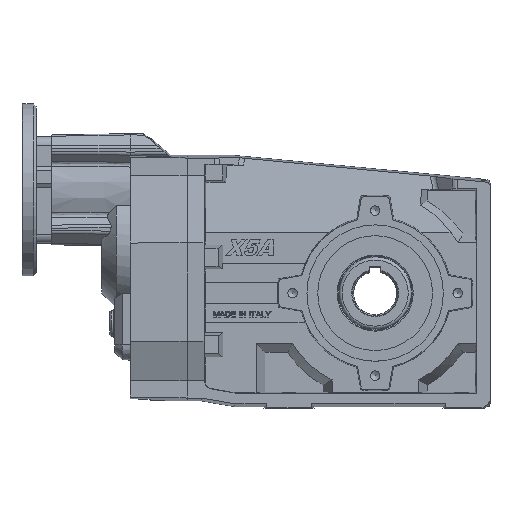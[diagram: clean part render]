
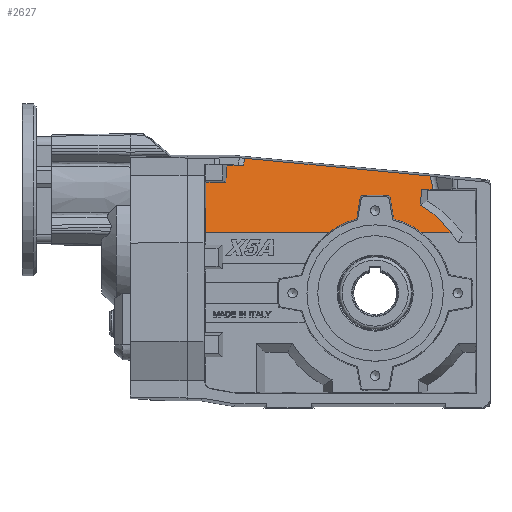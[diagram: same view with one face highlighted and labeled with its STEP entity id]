
A CAD part, top view. The second image highlights one B-rep face of the part: STEP entity #2627.
In plain terms, the highlighted planar face has unit normal (0, 0.208, 0.978).
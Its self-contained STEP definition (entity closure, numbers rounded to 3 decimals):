
#2627 = ADVANCED_FACE( '', ( #5766 ), #5767, .F. );
#5766 = FACE_OUTER_BOUND( '', #9890, .T. );
#5767 = PLANE( '', #9891 );
#9890 = EDGE_LOOP( '', ( #18056, #18057, #18058, #18059, #18060, #18061, #18062, #18063, #18064, #18065, #18066, #18067, #18068, #18069, #18070, #18071, #18072 ) );
#9891 = AXIS2_PLACEMENT_3D( '', #18073, #18074, #18075 );
#18056 = ORIENTED_EDGE( '', *, *, #23609, .F. );
#18057 = ORIENTED_EDGE( '', *, *, #22492, .F. );
#18058 = ORIENTED_EDGE( '', *, *, #23610, .F. );
#18059 = ORIENTED_EDGE( '', *, *, #21189, .F. );
#18060 = ORIENTED_EDGE( '', *, *, #20697, .F. );
#18061 = ORIENTED_EDGE( '', *, *, #23234, .T. );
#18062 = ORIENTED_EDGE( '', *, *, #22523, .F. );
#18063 = ORIENTED_EDGE( '', *, *, #23611, .F. );
#18064 = ORIENTED_EDGE( '', *, *, #21769, .F. );
#18065 = ORIENTED_EDGE( '', *, *, #23612, .T. );
#18066 = ORIENTED_EDGE( '', *, *, #22563, .F. );
#18067 = ORIENTED_EDGE( '', *, *, #22756, .T. );
#18068 = ORIENTED_EDGE( '', *, *, #23613, .F. );
#18069 = ORIENTED_EDGE( '', *, *, #23614, .F. );
#18070 = ORIENTED_EDGE( '', *, *, #20625, .F. );
#18071 = ORIENTED_EDGE( '', *, *, #23615, .F. );
#18072 = ORIENTED_EDGE( '', *, *, #23616, .F. );
#18073 = CARTESIAN_POINT( '', ( -131., 42., 49. ) );
#18074 = DIRECTION( '', ( 0., -0.208, -0.978 ) );
#18075 = DIRECTION( '', ( 0., 0.978, -0.208 ) );
#20625 = EDGE_CURVE( '', #24154, #24155, #24156, .T. );
#20697 = EDGE_CURVE( '', #24279, #24280, #24281, .F. );
#21189 = EDGE_CURVE( '', #24280, #25145, #25146, .T. );
#21769 = EDGE_CURVE( '', #26125, #26127, #26128, .T. );
#22492 = EDGE_CURVE( '', #27217, #27219, #27220, .T. );
#22523 = EDGE_CURVE( '', #27264, #27266, #27267, .T. );
#22563 = EDGE_CURVE( '', #27325, #27327, #27328, .T. );
#22756 = EDGE_CURVE( '', #27325, #27597, #27598, .F. );
#23234 = EDGE_CURVE( '', #24279, #27266, #28237, .T. );
#23609 = EDGE_CURVE( '', #27219, #28690, #28691, .F. );
#23610 = EDGE_CURVE( '', #25145, #27217, #28692, .F. );
#23611 = EDGE_CURVE( '', #26127, #27264, #28693, .T. );
#23612 = EDGE_CURVE( '', #26125, #27327, #28694, .F. );
#23613 = EDGE_CURVE( '', #28695, #27597, #28696, .F. );
#23614 = EDGE_CURVE( '', #24155, #28695, #28697, .T. );
#23615 = EDGE_CURVE( '', #28698, #24154, #28699, .T. );
#23616 = EDGE_CURVE( '', #28690, #28698, #28700, .F. );
#24154 = VERTEX_POINT( '', #29299 );
#24155 = VERTEX_POINT( '', #29300 );
#24156 = LINE( '', #29301, #29302 );
#24279 = VERTEX_POINT( '', #29465 );
#24280 = VERTEX_POINT( '', #29466 );
#24281 = ELLIPSE( '', #29467, 53.791, 52.612 );
#25145 = VERTEX_POINT( '', #30946 );
#25146 = LINE( '', #30947, #30948 );
#26125 = VERTEX_POINT( '', #32607 );
#26127 = VERTEX_POINT( '', #32609 );
#26128 = LINE( '', #32610, #32611 );
#27217 = VERTEX_POINT( '', #34530 );
#27219 = VERTEX_POINT( '', #34535 );
#27220 = LINE( '', #34536, #34537 );
#27264 = VERTEX_POINT( '', #34595 );
#27266 = VERTEX_POINT( '', #34600 );
#27267 = ELLIPSE( '', #34601, 66.082, 64.444 );
#27325 = VERTEX_POINT( '', #34700 );
#27327 = VERTEX_POINT( '', #34702 );
#27328 = LINE( '', #34703, #34704 );
#27597 = VERTEX_POINT( '', #35120 );
#27598 = LINE( '', #35121, #35122 );
#28237 = LINE( '', #36155, #36156 );
#28690 = VERTEX_POINT( '', #37011 );
#28691 = ELLIPSE( '', #37012, 53.791, 52.612 );
#28692 = ELLIPSE( '', #37013, 69.128, 67.613 );
#28693 = LINE( '', #37014, #37015 );
#28694 = LINE( '', #37016, #37017 );
#28695 = VERTEX_POINT( '', #37018 );
#28696 = LINE( '', #37019, #37020 );
#28697 = LINE( '', #37021, #37022 );
#28698 = VERTEX_POINT( '', #37023 );
#28699 = LINE( '', #37024, #37025 );
#28700 = LINE( '', #37026, #37027 );
#29299 = CARTESIAN_POINT( '', ( -117.952, 77.296, 41.498 ) );
#29300 = CARTESIAN_POINT( '', ( -104.039, 77.296, 41.498 ) );
#29301 = CARTESIAN_POINT( '', ( -106.183, 77.296, 41.498 ) );
#29302 = VECTOR( '', #37746, 1000. );
#29465 = CARTESIAN_POINT( '', ( 32.452, 42., 49. ) );
#29466 = CARTESIAN_POINT( '', ( 12.879, 51.6, 46.959 ) );
#29467 = AXIS2_PLACEMENT_3D( '', #37829, #37830, #37831 );
#30946 = CARTESIAN_POINT( '', ( 10.24, 67.59, 43.561 ) );
#30947 = CARTESIAN_POINT( '', ( 12.879, 51.6, 46.959 ) );
#30948 = VECTOR( '', #38338, 1000. );
#32607 = CARTESIAN_POINT( '', ( 40.417, 72.121, 42.598 ) );
#32609 = CARTESIAN_POINT( '', ( 32.33, 72.121, 42.598 ) );
#32610 = CARTESIAN_POINT( '', ( -34.527, 72.121, 42.598 ) );
#32611 = VECTOR( '', #38948, 1000. );
#34530 = CARTESIAN_POINT( '', ( -10.24, 67.59, 43.561 ) );
#34535 = CARTESIAN_POINT( '', ( -12.879, 51.6, 46.959 ) );
#34536 = CARTESIAN_POINT( '', ( -10.24, 67.59, 43.561 ) );
#34537 = VECTOR( '', #39661, 1000. );
#34595 = CARTESIAN_POINT( '', ( 31.5, 61.39, 44.878 ) );
#34600 = CARTESIAN_POINT( '', ( 52.842, 42., 49. ) );
#34601 = AXIS2_PLACEMENT_3D( '', #39694, #39695, #39696 );
#34700 = CARTESIAN_POINT( '', ( -90.771, 93.978, 37.952 ) );
#34702 = CARTESIAN_POINT( '', ( 38.414, 81.548, 40.594 ) );
#34703 = CARTESIAN_POINT( '', ( -90.771, 93.978, 37.952 ) );
#34704 = VECTOR( '', #39740, 1000. );
#35120 = CARTESIAN_POINT( '', ( -91.806, 89.109, 38.987 ) );
#35121 = CARTESIAN_POINT( '', ( -91.806, 89.109, 38.987 ) );
#35122 = VECTOR( '', #39917, 1000. );
#36155 = CARTESIAN_POINT( '', ( -131., 42., 49. ) );
#36156 = VECTOR( '', #40380, 1000. );
#37011 = CARTESIAN_POINT( '', ( -32.452, 42., 49. ) );
#37012 = AXIS2_PLACEMENT_3D( '', #40664, #40665, #40666 );
#37013 = AXIS2_PLACEMENT_3D( '', #40667, #40668, #40669 );
#37014 = CARTESIAN_POINT( '', ( 32.33, 72.121, 42.598 ) );
#37015 = VECTOR( '', #40670, 1000. );
#37016 = CARTESIAN_POINT( '', ( 38.414, 81.548, 40.594 ) );
#37017 = VECTOR( '', #40671, 1000. );
#37018 = CARTESIAN_POINT( '', ( -103.366, 89.109, 38.987 ) );
#37019 = CARTESIAN_POINT( '', ( 0., 89.109, 38.987 ) );
#37020 = VECTOR( '', #40672, 1000. );
#37021 = CARTESIAN_POINT( '', ( -104.039, 77.296, 41.498 ) );
#37022 = VECTOR( '', #40673, 1000. );
#37023 = CARTESIAN_POINT( '', ( -118.345, 42., 49. ) );
#37024 = CARTESIAN_POINT( '', ( -118.345, 42., 49. ) );
#37025 = VECTOR( '', #40674, 1000. );
#37026 = CARTESIAN_POINT( '', ( -131., 42., 49. ) );
#37027 = VECTOR( '', #40675, 1000. );
#37746 = DIRECTION( '', ( 1., 0., 0. ) );
#37829 = CARTESIAN_POINT( '', ( 0., 0.586, 57.803 ) );
#37830 = DIRECTION( '', ( 0., -0.208, -0.978 ) );
#37831 = DIRECTION( '', ( 0., 0.978, -0.208 ) );
#38338 = DIRECTION( '', ( -0.159, 0.966, -0.205 ) );
#38948 = DIRECTION( '', ( -1., 0., 0. ) );
#39661 = DIRECTION( '', ( -0.159, -0.966, 0.205 ) );
#39694 = CARTESIAN_POINT( '', ( 0., 5.001, 56.864 ) );
#39695 = DIRECTION( '', ( 0., -0.208, -0.978 ) );
#39696 = DIRECTION( '', ( 0., 0.978, -0.208 ) );
#39740 = DIRECTION( '', ( 0.995, -0.096, 0.02 ) );
#39917 = DIRECTION( '', ( 0.204, 0.958, -0.204 ) );
#40380 = DIRECTION( '', ( 1., 0., 0. ) );
#40664 = CARTESIAN_POINT( '', ( 0., 0.586, 57.803 ) );
#40665 = DIRECTION( '', ( 0., -0.208, -0.978 ) );
#40666 = DIRECTION( '', ( 0., 0.978, -0.208 ) );
#40667 = CARTESIAN_POINT( '', ( 0., 0.753, 57.767 ) );
#40668 = DIRECTION( '', ( 0., -0.208, -0.978 ) );
#40669 = DIRECTION( '', ( 0., 0.978, -0.208 ) );
#40670 = DIRECTION( '', ( -0.075, -0.975, 0.207 ) );
#40671 = DIRECTION( '', ( 0.204, -0.958, 0.204 ) );
#40672 = DIRECTION( '', ( -1., 0., 0. ) );
#40673 = DIRECTION( '', ( 0.056, 0.977, -0.208 ) );
#40674 = DIRECTION( '', ( 0.011, 0.978, -0.208 ) );
#40675 = DIRECTION( '', ( 1., 0., 0. ) );
